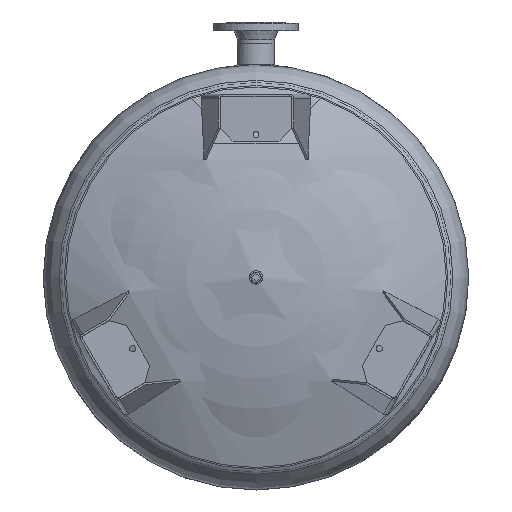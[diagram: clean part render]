
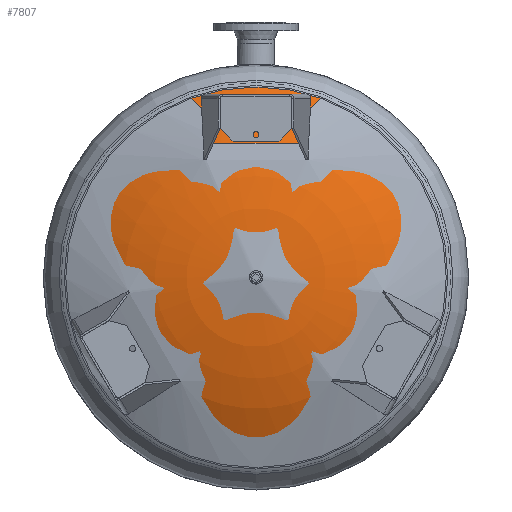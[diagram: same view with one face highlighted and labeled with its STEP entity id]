
A CAD part, front view. The second image highlights one B-rep face of the part: STEP entity #7807.
In plain terms, the highlighted free-form (B-spline) face has degree [2, 2] with [3, 3] control points.
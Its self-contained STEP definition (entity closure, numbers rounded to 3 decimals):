
#7656=CARTESIAN_POINT('',(10.48,-367.347,0.));
#7657=VERTEX_POINT('',#7656);
#7658=CARTESIAN_POINT('',(0.,-367.347,0.));
#7659=DIRECTION('',(0.0,-1.0,0.0));
#7660=DIRECTION('',(-1.0,0.0,0.0));
#7661=AXIS2_PLACEMENT_3D('',#7658,#7659,#7660);
#7662=CIRCLE('',#7661,10.48);
#7663=EDGE_CURVE('',#7657,#7657,#7662,.T.);
#7776=CARTESIAN_POINT('',(-399.974,-167.437,-447.174));
#7777=CARTESIAN_POINT('',(-499.945,-367.402,0.));
#7778=CARTESIAN_POINT('',(-399.974,-167.437,447.174));
#7779=CARTESIAN_POINT('',(0.,-367.402,-447.174));
#7780=CARTESIAN_POINT('',(0.,-617.347,0.));
#7781=CARTESIAN_POINT('',(0.,-367.402,447.174));
#7782=CARTESIAN_POINT('',(399.974,-167.437,-447.174));
#7783=CARTESIAN_POINT('',(499.945,-367.402,0.));
#7784=CARTESIAN_POINT('',(399.974,-167.437,447.174));
#7792=(BOUNDED_SURFACE()B_SPLINE_SURFACE(2,2,((#7776,#7779,#7782),(#7777,#7780,#7783),(#7778,#7781,#7784)),.UNSPECIFIED.,.F.,.F.,.U.)B_SPLINE_SURFACE_WITH_KNOTS((3,3),(3,3),(-0.464,0.464),(0.0,0.927),.UNSPECIFIED.)GEOMETRIC_REPRESENTATION_ITEM()RATIONAL_B_SPLINE_SURFACE(((1.0,0.894,1.0),(0.894,0.8,0.894),(1.0,0.894,1.0)))REPRESENTATION_ITEM('')SURFACE());
#7793=ORIENTED_EDGE('',*,*,#7663,.T.);
#7794=EDGE_LOOP('',(#7793));
#7795=FACE_OUTER_BOUND('',#7794,.T.);
#7796=CARTESIAN_POINT('',(447.174,-261.849,0.));
#7797=VERTEX_POINT('',#7796);
#7798=CARTESIAN_POINT('',(0.,-261.849,0.));
#7799=DIRECTION('',(0.0,-1.0,0.0));
#7800=DIRECTION('',(1.0,0.0,0.0));
#7801=AXIS2_PLACEMENT_3D('',#7798,#7799,#7800);
#7802=CIRCLE('',#7801,447.174);
#7803=EDGE_CURVE('',#7797,#7797,#7802,.T.);
#7804=ORIENTED_EDGE('',*,*,#7803,.F.);
#7805=EDGE_LOOP('',(#7804));
#7806=FACE_BOUND('',#7805,.T.);
#7807=ADVANCED_FACE('',(#7795,#7806),#7792,.T.);
